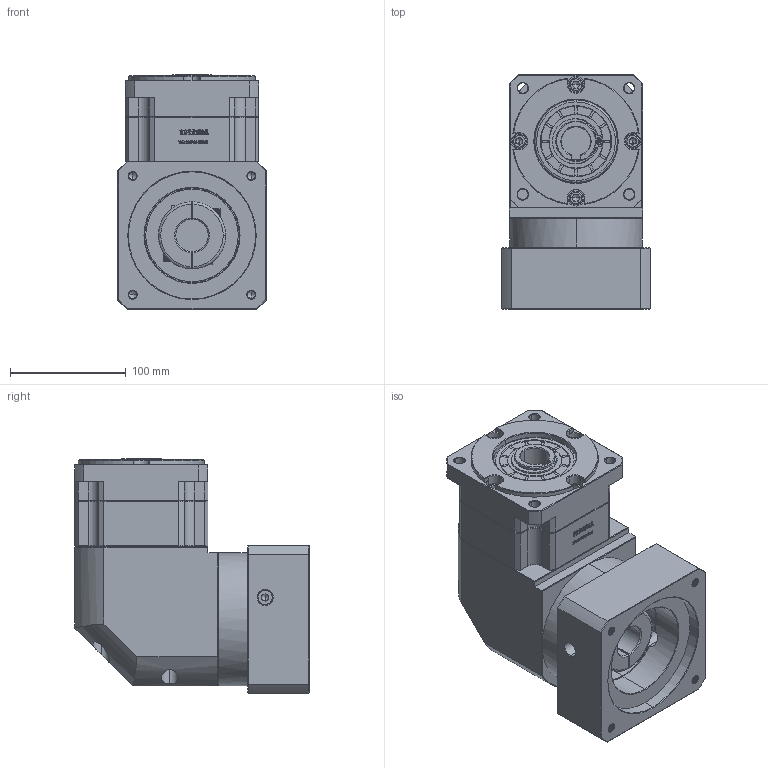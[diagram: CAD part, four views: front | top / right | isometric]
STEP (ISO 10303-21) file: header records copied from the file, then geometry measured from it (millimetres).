
FILE_DESCRIPTION (( 'STEP AP214' ), '1' );
FILE_NAME ('ZBR115A-K25-L1-28-110-145-M8.step', '2023-03-03T05:06:22', ( '' ), ( 'Microsoft' ), 'SwSTEP 2.0', 'SolidWorks 2016', '' );
FILE_SCHEMA (( 'AUTOMOTIVE_DESIGN' ));
Length unit declared in the file: millimetre
Products named in the file (1): ZBR115A-K25-L1-28-110-145-M8
Bounding box: 128 x 202.4 x 203 mm (x, y, z)
Volume: 3103253.5 mm3; surface area: 259246 mm2
Topology: 6 solids, 6 shells, 2928 faces, 7770 edges, 4985 vertices
Faces by surface type: plane 1553, bspline 598, cylinder 406, cone 363, torus 8
Entity records: 156417 total; most frequent: CARTESIAN_POINT 56171, ORIENTED_EDGE 15484, DIRECTION 11744, EDGE_CURVE 7742, VECTOR 5258, LINE 5258, VERTEX_POINT 4985, AXIS2_PLACEMENT_3D 3243
